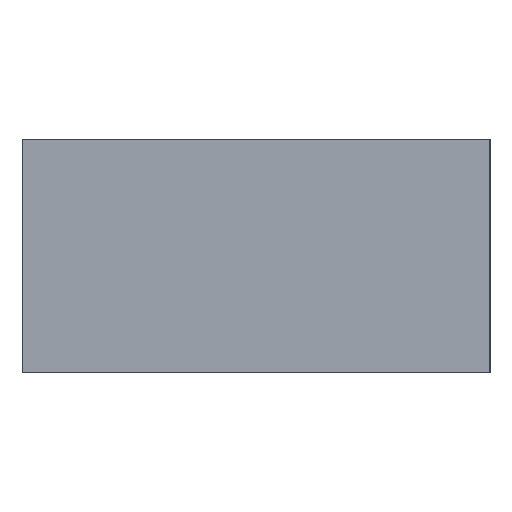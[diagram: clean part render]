
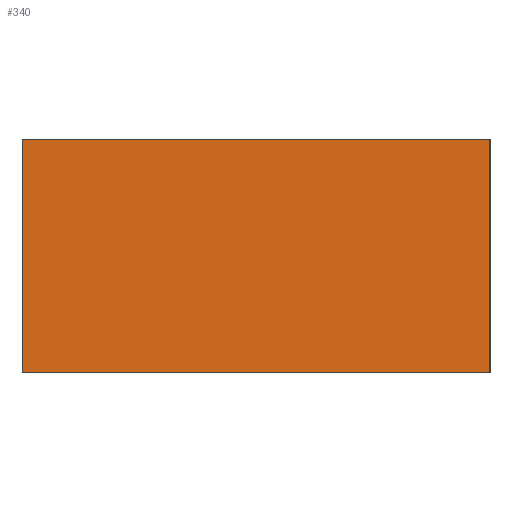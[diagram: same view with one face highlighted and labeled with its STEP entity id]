
A CAD part, left-side view. The second image highlights one B-rep face of the part: STEP entity #340.
In plain terms, the highlighted planar face has unit normal (-1, 0, 0).
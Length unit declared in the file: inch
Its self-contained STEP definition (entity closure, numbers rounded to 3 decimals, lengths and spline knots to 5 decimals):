
#3 = EDGE_CURVE ( 'NONE', #282, #286, #267, .T. ) ;
#15 = EDGE_CURVE ( 'NONE', #286, #225, #262, .T. ) ;
#40 = EDGE_CURVE ( 'NONE', #226, #225, #279, .T. ) ;
#42 = AXIS2_PLACEMENT_3D ( 'NONE', #185, #156, #161 ) ;
#44 = EDGE_CURVE ( 'NONE', #282, #226, #264, .T. ) ;
#60 = CARTESIAN_POINT ( 'NONE',  ( -1., 0.25, 0. ) ) ;
#66 = DIRECTION ( 'NONE',  ( 0., -1., 0. ) ) ;
#69 = DIRECTION ( 'NONE',  ( 0., 0., -1. ) ) ;
#82 = CARTESIAN_POINT ( 'NONE',  ( -1., 0.25, 0.25 ) ) ;
#93 = CARTESIAN_POINT ( 'NONE',  ( -1., -0.25, 0. ) ) ;
#94 = CARTESIAN_POINT ( 'NONE',  ( -1., 0.25, 0. ) ) ;
#103 = CARTESIAN_POINT ( 'NONE',  ( -1., -0.25, 0.25 ) ) ;
#113 = CARTESIAN_POINT ( 'NONE',  ( -1., 0.25, 0.25 ) ) ;
#115 = DIRECTION ( 'NONE',  ( 0., -1., 0. ) ) ;
#126 = DIRECTION ( 'NONE',  ( 0., 0., -1. ) ) ;
#129 = CARTESIAN_POINT ( 'NONE',  ( -1., 0.25, 0.25 ) ) ;
#130 = CARTESIAN_POINT ( 'NONE',  ( -1., -0.25, 0.25 ) ) ;
#139 = PLANE ( 'NONE',  #42 ) ;
#156 = DIRECTION ( 'NONE',  ( 1., 0., 0. ) ) ;
#161 = DIRECTION ( 'NONE',  ( 0., 0., -1. ) ) ;
#185 = CARTESIAN_POINT ( 'NONE',  ( -1., 0.25, 0.25 ) ) ;
#194 = EDGE_LOOP ( 'NONE', ( #248, #205, #219, #240 ) ) ;
#205 = ORIENTED_EDGE ( 'NONE', *, *, #40, .F. ) ;
#219 = ORIENTED_EDGE ( 'NONE', *, *, #44, .F. ) ;
#225 = VERTEX_POINT ( 'NONE', #93 ) ;
#226 = VERTEX_POINT ( 'NONE', #103 ) ;
#240 = ORIENTED_EDGE ( 'NONE', *, *, #3, .T. ) ;
#248 = ORIENTED_EDGE ( 'NONE', *, *, #15, .T. ) ;
#262 = LINE ( 'NONE', #60, #314 ) ;
#264 = LINE ( 'NONE', #113, #272 ) ;
#267 = LINE ( 'NONE', #82, #270 ) ;
#270 = VECTOR ( 'NONE', #69, 39.37008 ) ;
#272 = VECTOR ( 'NONE', #115, 39.37008 ) ;
#279 = LINE ( 'NONE', #130, #292 ) ;
#282 = VERTEX_POINT ( 'NONE', #129 ) ;
#286 = VERTEX_POINT ( 'NONE', #94 ) ;
#292 = VECTOR ( 'NONE', #126, 39.37008 ) ;
#294 = FACE_OUTER_BOUND ( 'NONE', #194, .T. ) ;
#314 = VECTOR ( 'NONE', #66, 39.37008 ) ;
#340 = ADVANCED_FACE ( 'NONE', ( #294 ), #139, .F. ) ;
